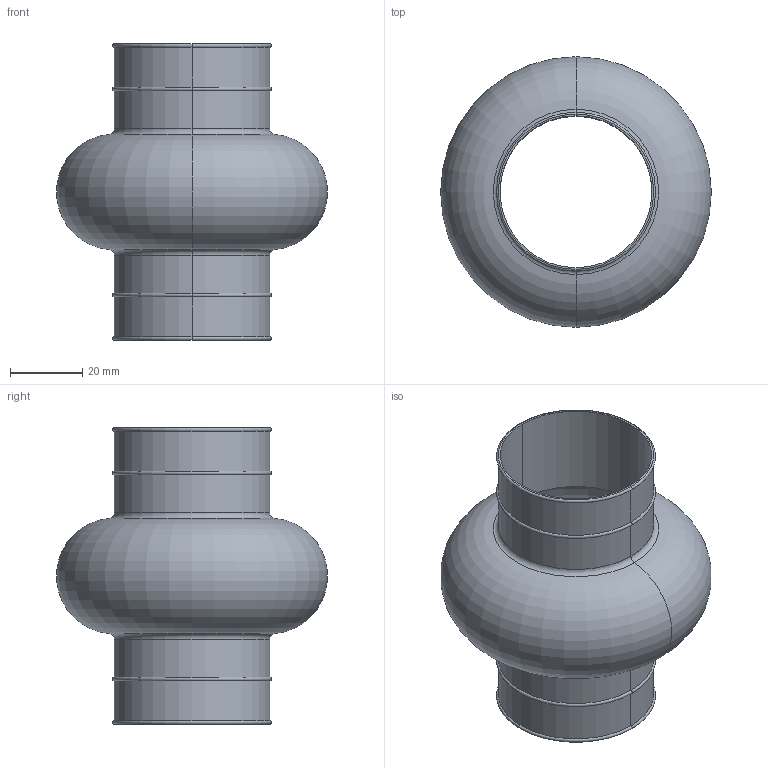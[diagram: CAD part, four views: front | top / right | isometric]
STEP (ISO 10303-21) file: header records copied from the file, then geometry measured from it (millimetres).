
FILE_DESCRIPTION (( 'STEP AP203' ), '1' );
FILE_NAME ('65280.W0042.step', '2018-06-20T18:12:28', ( '' ), ( '' ), 'SwSTEP 2.0', 'SolidWorks 2017', '' );
FILE_SCHEMA (( 'CONFIG_CONTROL_DESIGN' ));
Length unit declared in the file: millimetre
Products named in the file (1): 65280.W0042
Bounding box: 74.88 x 74.88 x 82 mm (x, y, z)
Volume: 8635.6 mm3; surface area: 33523.3 mm2
Topology: 1 solids, 1 shells, 30 faces, 60 edges, 32 vertices
Faces by surface type: torus 16, cylinder 12, plane 2
Entity records: 861 total; most frequent: DIRECTION 170, CARTESIAN_POINT 123, ORIENTED_EDGE 120, AXIS2_PLACEMENT_3D 79, EDGE_CURVE 60, CIRCLE 48, EDGE_LOOP 32, VERTEX_POINT 32
